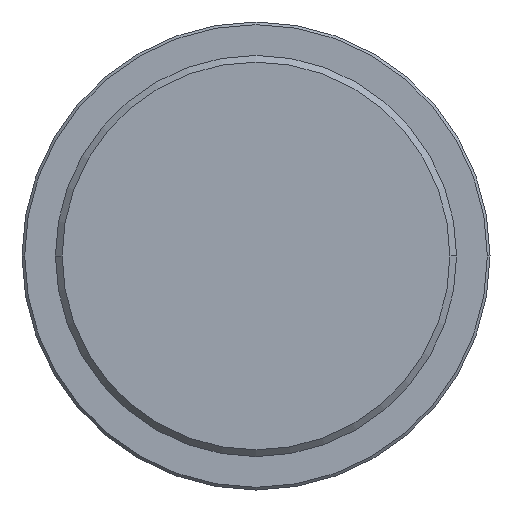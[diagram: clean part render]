
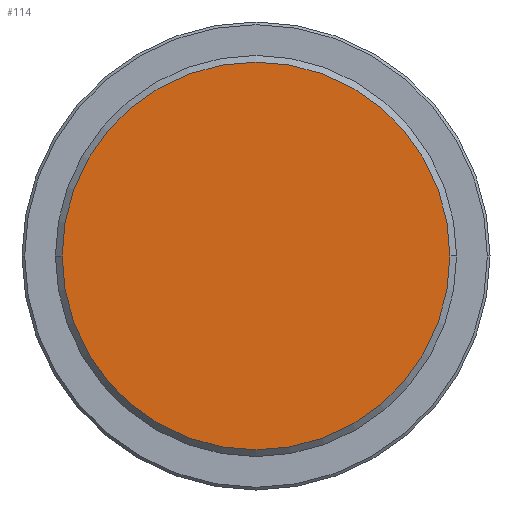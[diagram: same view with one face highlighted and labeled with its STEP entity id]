
A CAD part, left-side view. The second image highlights one B-rep face of the part: STEP entity #114.
In plain terms, the highlighted planar face has unit normal (-1, 0, 0).
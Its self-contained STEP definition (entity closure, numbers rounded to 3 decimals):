
#114 = ADVANCED_FACE ( 'NONE', ( #318 ), #304, .T. ) ;
#115 = EDGE_LOOP ( 'NONE', ( #116, #118 ) ) ;
#116 = ORIENTED_EDGE ( 'NONE', *, *, #117, .T. ) ;
#117 = EDGE_CURVE ( 'NONE', #1205, #1204, #314, .T. ) ;
#118 = ORIENTED_EDGE ( 'NONE', *, *, #1203, .T. ) ;
#131 = DIRECTION ( 'NONE',  ( -1., 0., 0. ) ) ;
#132 = DIRECTION ( 'NONE',  ( 0., -1., 0. ) ) ;
#304 = PLANE ( 'NONE',  #309 ) ;
#305 = DIRECTION ( 'NONE',  ( 0., -1., 0. ) ) ;
#306 = DIRECTION ( 'NONE',  ( -1., 0., 0. ) ) ;
#308 = CARTESIAN_POINT ( 'NONE',  ( -31., 15., 0. ) ) ;
#309 = AXIS2_PLACEMENT_3D ( 'NONE', #308, #306, #305 ) ;
#312 = CARTESIAN_POINT ( 'NONE',  ( -31., 0., 0. ) ) ;
#313 = AXIS2_PLACEMENT_3D ( 'NONE', #312, #131, #132 ) ;
#314 = CIRCLE ( 'NONE', #313, 14.5 ) ;
#318 = FACE_OUTER_BOUND ( 'NONE', #115, .T. ) ;
#605 = CARTESIAN_POINT ( 'NONE',  ( -31., 0., 0. ) ) ;
#606 = AXIS2_PLACEMENT_3D ( 'NONE', #605, #726, #725 ) ;
#610 = CIRCLE ( 'NONE', #606, 14.5 ) ;
#723 = CARTESIAN_POINT ( 'NONE',  ( -31., 14.5, 0. ) ) ;
#724 = CARTESIAN_POINT ( 'NONE',  ( -31., -14.5, 0. ) ) ;
#725 = DIRECTION ( 'NONE',  ( 0., -1., 0. ) ) ;
#726 = DIRECTION ( 'NONE',  ( -1., 0., 0. ) ) ;
#1203 = EDGE_CURVE ( 'NONE', #1204, #1205, #610, .T. ) ;
#1204 = VERTEX_POINT ( 'NONE', #724 ) ;
#1205 = VERTEX_POINT ( 'NONE', #723 ) ;
